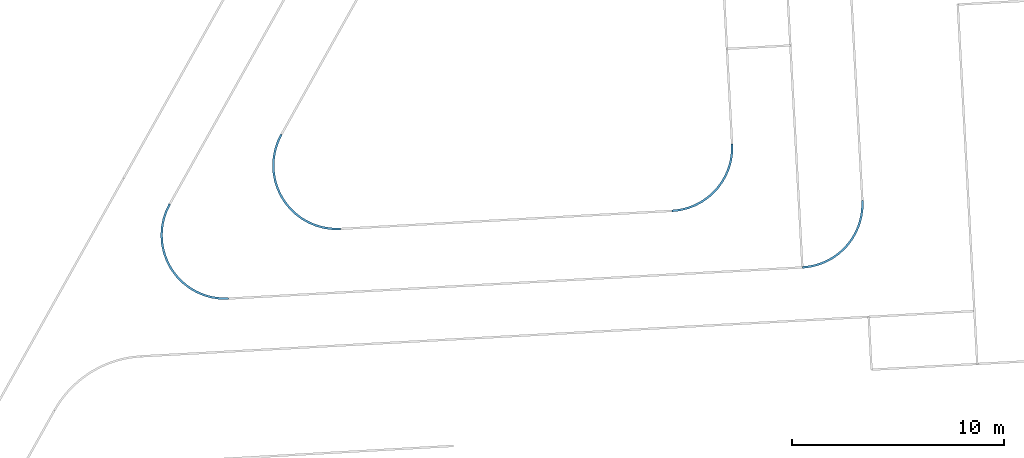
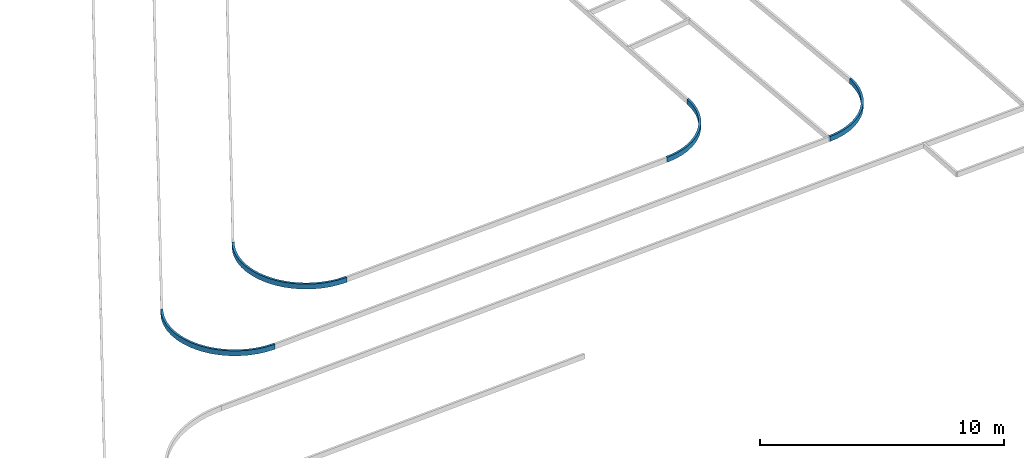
# One storey, part 90 of 112: 4 beams.
"""IFC2X3 building model written with IfcOpenShell, lengths in millimetres."""

from ifc_helpers import new_model, entity, si_unit, converted_unit, derived_unit, direction, frame, origin, place, context, subcontext, project, spatial, faceted_brep, material, type_object, element, save


model = new_model("IFC2X3")

# Units and contexts
model_context = context("Model", 3, precision=0.01, world=origin(), true_north=direction((6.123031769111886e-17, 1.0)))
body_context = subcontext(model_context, "Body", "Model", "MODEL_VIEW")
ifc_project = project(units=[si_unit("LENGTHUNIT", "METRE", prefix="MILLI"), si_unit("AREAUNIT", "SQUARE_METRE"), si_unit("VOLUMEUNIT", "CUBIC_METRE"), converted_unit("PLANEANGLEUNIT", "DEGREE", entity("IfcRatioMeasure", 0.017453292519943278), si_unit("PLANEANGLEUNIT", "RADIAN"), dimensions=[0, 0, 0, 0, 0, 0, 0]), si_unit("MASSUNIT", "GRAM", prefix="KILO"), derived_unit("MASSDENSITYUNIT", [(si_unit("MASSUNIT", "GRAM", prefix="KILO"), 1), (si_unit("LENGTHUNIT", "METRE"), -3)]), derived_unit("MOMENTOFINERTIAUNIT", [(si_unit("LENGTHUNIT", "METRE"), 4)]), si_unit("TIMEUNIT", "SECOND"), si_unit("FREQUENCYUNIT", "HERTZ"), si_unit("THERMODYNAMICTEMPERATUREUNIT", "DEGREE_CELSIUS"), derived_unit("THERMALTRANSMITTANCEUNIT", [(si_unit("MASSUNIT", "GRAM", prefix="KILO"), 1), (si_unit("THERMODYNAMICTEMPERATUREUNIT", "KELVIN"), -1), (si_unit("TIMEUNIT", "SECOND"), -3)]), derived_unit("THERMALCONDUCTANCEUNIT", [(si_unit("MASSUNIT", "GRAM", prefix="KILO"), 1), (si_unit("LENGTHUNIT", "METRE"), 1), (si_unit("THERMODYNAMICTEMPERATUREUNIT", "KELVIN"), -1), (si_unit("TIMEUNIT", "SECOND"), -3)]), derived_unit("VOLUMETRICFLOWRATEUNIT", [(si_unit("LENGTHUNIT", "METRE"), 3), (si_unit("TIMEUNIT", "SECOND"), -1)]), derived_unit("MASSFLOWRATEUNIT", [(si_unit("MASSUNIT", "GRAM", prefix="KILO"), 1), (si_unit("TIMEUNIT", "SECOND"), -1)]), derived_unit("ROTATIONALFREQUENCYUNIT", [(si_unit("TIMEUNIT", "SECOND"), -1)]), si_unit("ELECTRICCURRENTUNIT", "AMPERE"), si_unit("ELECTRICVOLTAGEUNIT", "VOLT"), si_unit("POWERUNIT", "WATT"), converted_unit("FORCEUNIT", "KIP", entity("IfcRatioMeasure", 2.088543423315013e-05), si_unit("FORCEUNIT", "NEWTON"), dimensions=[1, 1, -2, 0, 0, 0, 0]), si_unit("ILLUMINANCEUNIT", "LUX"), si_unit("LUMINOUSFLUXUNIT", "LUMEN"), si_unit("LUMINOUSINTENSITYUNIT", "CANDELA"), derived_unit("USERDEFINED", [(si_unit("MASSUNIT", "GRAM", prefix="KILO"), -1), (si_unit("LENGTHUNIT", "METRE"), -2), (si_unit("TIMEUNIT", "SECOND"), 3), (si_unit("LUMINOUSFLUXUNIT", "LUMEN"), 1)]), derived_unit("USERDEFINED", [(si_unit("MASSUNIT", "GRAM", prefix="KILO"), 1), (si_unit("LENGTHUNIT", "METRE"), 3), (si_unit("TIMEUNIT", "SECOND"), -3), (si_unit("ELECTRICCURRENTUNIT", "AMPERE"), -2)]), derived_unit("USERDEFINED", [(si_unit("LENGTHUNIT", "METRE"), 2), (si_unit("TIMEUNIT", "SECOND"), -2)]), derived_unit("SOUNDPOWERUNIT", [(si_unit("MASSUNIT", "GRAM", prefix="KILO"), 1), (si_unit("LENGTHUNIT", "METRE"), 2), (si_unit("TIMEUNIT", "SECOND"), -3)]), derived_unit("SOUNDPRESSUREUNIT", [(si_unit("MASSUNIT", "GRAM", prefix="KILO"), 1), (si_unit("LENGTHUNIT", "METRE"), -1), (si_unit("TIMEUNIT", "SECOND"), -2)]), derived_unit("LINEARVELOCITYUNIT", [(si_unit("LENGTHUNIT", "METRE"), 1), (si_unit("TIMEUNIT", "SECOND"), -1)]), si_unit("PRESSUREUNIT", "PASCAL"), derived_unit("USERDEFINED", [(si_unit("LENGTHUNIT", "METRE"), -2), (si_unit("MASSUNIT", "GRAM", prefix="KILO"), 1), (si_unit("TIMEUNIT", "SECOND"), -2)]), derived_unit("LINEARFORCEUNIT", [(si_unit("MASSUNIT", "GRAM", prefix="KILO"), 1), (si_unit("LENGTHUNIT", "METRE"), 1), (si_unit("TIMEUNIT", "SECOND"), -2), (si_unit("LENGTHUNIT", "METRE"), -1)]), derived_unit("PLANARFORCEUNIT", [(si_unit("MASSUNIT", "GRAM", prefix="KILO"), 1), (si_unit("LENGTHUNIT", "METRE"), 1), (si_unit("TIMEUNIT", "SECOND"), -2), (si_unit("LENGTHUNIT", "METRE"), -2)]), derived_unit("SPECIFICHEATCAPACITYUNIT", [(si_unit("LENGTHUNIT", "METRE"), 2), (si_unit("TIMEUNIT", "SECOND"), -2), (si_unit("THERMODYNAMICTEMPERATUREUNIT", "KELVIN"), -1)]), derived_unit("VAPORPERMEABILITYUNIT", [(si_unit("TIMEUNIT", "SECOND"), 1), (si_unit("LENGTHUNIT", "METRE"), -1)]), derived_unit("DYNAMICVISCOSITYUNIT", [(si_unit("MASSUNIT", "GRAM", prefix="KILO"), 1), (si_unit("LENGTHUNIT", "METRE"), -1), (si_unit("TIMEUNIT", "SECOND"), -1)]), derived_unit("THERMALEXPANSIONCOEFFICIENTUNIT", [(si_unit("THERMODYNAMICTEMPERATUREUNIT", "KELVIN"), -1)])], contexts=[model_context])

# Site, building, storey
site_placement = place(None, frame((0.0, 0.0, 0.0), z_axis=(0.0, 0.0, 1.0), x_axis=(0.8191520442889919, 0.5735764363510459, 0.0)))
site = spatial("IfcSite", under=ifc_project, at=site_placement, Name="Default", CompositionType="ELEMENT")
building_placement = place(site_placement, origin())
building = spatial("IfcBuilding", under=site, at=building_placement, CompositionType="ELEMENT")
storey_placement = place(building_placement, frame((0.0, 0.0, -3600.0)))
storey = spatial("IfcBuildingStorey", under=building, at=storey_placement, Name="0.UG -3.60", CompositionType="ELEMENT", Elevation=-3600.0000000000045)

# Beams
ifc_material = material(Name="Paveta_bordur")
beam_type_1 = type_object("IfcBeamType", Name="Beam-146", PredefinedType="NOTDEFINED")
beam_1_placement = place(storey_placement, frame((-44961.906120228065, 81091.59817220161, 1360.0)))
element("IfcBeam", 1, at=beam_1_placement, inside=storey, type_object=beam_type_1, material=ifc_material, Name="Beam-146:Beam-146", ObjectType="Beam-146:Beam-146", context=body_context, shape_type="Brep", body=[
    faceted_brep([(1767.6512230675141, 5247.170794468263, 250.0), (1767.6512230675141, 5247.170794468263, 0.0), (1724.1324543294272, 5337.204770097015, 0.0), (1724.1324543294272, 5337.204770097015, 250.0), (1440.0547554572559, 1.5952722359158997, 0.0), (1492.887547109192, 86.49931293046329, 0.0), (1492.887547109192, 86.49931293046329, 250.0), (1440.0547554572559, 1.5952722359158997, 250.0), (1334.2374162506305, 192.48885356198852, 0.0), (1128.4197543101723, 223.79954656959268, 0.0), (847.0677480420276, 483.2839623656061, 0.0), (600.4293272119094, 775.9622889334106, 0.0), (392.3884302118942, 1097.2255744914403, 0.0), (226.2211809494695, 1442.014725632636, 0.0), (104.54429808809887, 1804.9001753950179, 0.0), (29.273888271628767, 2180.1673853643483, 0.0), (1.5952722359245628, 2561.906835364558, 0.0), (21.94431897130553, 2944.107083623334, 0.0), (90.00058187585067, 3320.7494319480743, 0.0), (204.69234498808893, 3685.902705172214, 0.0), (364.21349983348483, 4033.816652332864, 0.0), (566.0519871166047, 4359.012498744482, 0.0), (807.0293553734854, 4656.369223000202, 0.0), (1083.350813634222, 4921.20420025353, 0.0), (1390.6649898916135, 5149.346941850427, 0.0), (1598.6437437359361, 5158.626349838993, 0.0), (1435.7135553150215, 5059.341907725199, 0.0), (1279.5422151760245, 4949.732787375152, 0.0), (1130.7830075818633, 4830.257497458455, 0.0), (990.0582109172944, 4701.415818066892, 0.0), (857.9564946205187, 4563.746710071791, 0.0), (735.0304567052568, 4417.826060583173, 0.0), (621.7943121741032, 4264.264273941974, 0.0), (518.7217419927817, 4103.703718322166, 0.0), (426.243911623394, 3936.8160386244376, 0.0), (344.7476674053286, 3764.2993469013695, 0.0), (274.573918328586, 3586.875302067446, 0.0), (216.01620996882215, 3405.2860911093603, 0.0), (169.31949654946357, 3220.291324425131, 0.0), (134.679116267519, 3032.6648582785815, 0.0), (112.23997416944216, 2843.191557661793, 0.0), (102.0959359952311, 2652.6640131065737, 0.0), (104.28943552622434, 2461.8792251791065, 0.0), (118.81129707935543, 2271.635270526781, 0.0), (145.6007738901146, 2082.7279634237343, 0.0), (184.54580222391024, 1895.9475267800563, 0.0), (235.48347015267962, 1712.0752865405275, 0.0), (298.20069903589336, 1531.8804033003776, 0.0), (372.435134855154, 1356.1166548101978, 0.0), (457.87624567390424, 1185.5192828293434, 0.0), (554.1666206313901, 1020.801917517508, 0.0), (660.9034650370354, 862.6535922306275, 0.0), (777.6402853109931, 711.7358612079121, 0.0), (903.8887567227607, 568.6800322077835, 0.0), (1039.1207661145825, 434.08452566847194, 0.0), (1182.770621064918, 308.5123714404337, 0.0), (1390.6649898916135, 5149.346941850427, 250.0), (1083.350813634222, 4921.20420025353, 250.0), (807.0293553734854, 4656.369223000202, 250.0), (90.00058187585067, 3320.7494319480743, 250.0), (204.69234498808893, 3685.902705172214, 250.0), (566.0519871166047, 4359.012498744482, 250.0), (364.21349983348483, 4033.816652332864, 250.0), (21.94431897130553, 2944.107083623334, 250.0), (1.5952722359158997, 2561.906835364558, 250.0), (29.273888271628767, 2180.1673853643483, 250.0), (104.54429808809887, 1804.9001753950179, 250.0), (226.22118094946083, 1442.014725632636, 250.0), (1128.4197543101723, 223.79954656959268, 250.0), (847.0677480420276, 483.2839623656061, 250.0), (392.3884302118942, 1097.2255744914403, 250.0), (600.4293272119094, 775.9622889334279, 250.0), (1334.2374162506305, 192.48885356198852, 250.0), (1182.770621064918, 308.5123714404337, 250.0), (1039.1207661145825, 434.08452566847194, 250.0), (903.8887567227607, 568.6800322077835, 250.0), (777.6402853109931, 711.7358612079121, 250.0), (660.9034650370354, 862.6535922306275, 250.0), (554.1666206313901, 1020.801917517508, 250.0), (457.87624567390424, 1185.5192828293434, 250.0), (372.435134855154, 1356.1166548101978, 250.0), (298.20069903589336, 1531.8804033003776, 250.0), (235.48347015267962, 1712.0752865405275, 250.0), (184.54580222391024, 1895.9475267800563, 250.0), (145.6007738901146, 2082.7279634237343, 250.0), (118.81129707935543, 2271.635270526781, 250.0), (104.28943552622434, 2461.8792251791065, 250.0), (102.0959359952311, 2652.6640131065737, 250.0), (112.23997416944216, 2843.191557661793, 250.0), (134.679116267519, 3032.6648582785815, 250.0), (169.31949654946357, 3220.291324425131, 250.0), (216.01620996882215, 3405.2860911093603, 250.0), (274.573918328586, 3586.875302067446, 250.0), (344.7476674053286, 3764.2993469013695, 250.0), (426.243911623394, 3936.8160386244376, 250.0), (518.7217419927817, 4103.703718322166, 250.0), (621.7943121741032, 4264.264273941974, 250.0), (735.0304567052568, 4417.826060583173, 250.0), (857.9564946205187, 4563.746710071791, 250.0), (990.0582109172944, 4701.415818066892, 250.0), (1130.7830075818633, 4830.257497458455, 250.0), (1279.5422151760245, 4949.732787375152, 250.0), (1435.7135553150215, 5059.341907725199, 250.0), (1598.6437437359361, 5158.626349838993, 250.0)], [[[0, 1, 2, 3]], [[4, 5, 6, 7]], [[8, 5, 4, 9, 10, 11, 12, 13, 14, 15, 16, 17, 18, 19, 20, 21, 22, 23, 24, 2, 1, 25, 26, 27, 28, 29, 30, 31, 32, 33, 34, 35, 36, 37, 38, 39, 40, 41, 42, 43, 44, 45, 46, 47, 48, 49, 50, 51, 52, 53, 54, 55]], [[56, 3, 2, 24]], [[57, 56, 24, 23]], [[57, 23, 22, 58]], [[19, 18, 59, 60]], [[61, 21, 20, 62]], [[62, 20, 19, 60]], [[21, 61, 58, 22]], [[59, 18, 17, 63]], [[17, 16, 64, 63]], [[65, 15, 14, 66]], [[64, 16, 15, 65]], [[66, 14, 13, 67]], [[10, 9, 68, 69]], [[70, 12, 11, 71]], [[71, 11, 10, 69]], [[13, 12, 70, 67]], [[68, 9, 4, 7]], [[7, 6, 72, 73, 74, 75, 76, 77, 78, 79, 80, 81, 82, 83, 84, 85, 86, 87, 88, 89, 90, 91, 92, 93, 94, 95, 96, 97, 98, 99, 100, 101, 102, 103, 0, 3, 56, 57, 58, 61, 62, 60, 59, 63, 64, 65, 66, 67, 70, 71, 69, 68]], [[1, 0, 103, 25]], [[26, 25, 103, 102]], [[101, 27, 26, 102]], [[100, 28, 27, 101]], [[31, 30, 98, 97]], [[30, 29, 99, 98]], [[29, 28, 100, 99]], [[37, 36, 92, 91]], [[37, 91, 90, 38]], [[39, 38, 90, 89]], [[33, 32, 96, 95]], [[94, 93, 35, 34]], [[33, 95, 94, 34]], [[36, 35, 93, 92]], [[31, 97, 96, 32]], [[40, 39, 89, 88]], [[88, 87, 41, 40]], [[44, 84, 83, 45]], [[45, 83, 82, 46]], [[46, 82, 81, 47]], [[42, 41, 87, 86]], [[43, 42, 86, 85]], [[43, 85, 84, 44]], [[48, 47, 81, 80]], [[54, 53, 75, 74]], [[55, 54, 74, 73]], [[8, 55, 73, 72]], [[50, 49, 79, 78]], [[77, 76, 52, 51]], [[50, 78, 77, 51]], [[53, 52, 76, 75]], [[48, 80, 79, 49]], [[5, 8, 72, 6]]]),
])
beam_type_2 = type_object("IfcBeamType", Name="Beam-142", PredefinedType="NOTDEFINED")
beam_2_placement = place(storey_placement, frame((-30197.268868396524, 72338.88035851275, 1360.0)))
element("IfcBeam", 2, at=beam_2_placement, inside=storey, type_object=beam_type_2, material=ifc_material, Name="Beam-142:Beam-142", ObjectType="Beam-142:Beam-142", context=body_context, shape_type="Brep", body=[
    faceted_brep([(54.42806388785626, 546.8064497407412, 250.0), (54.42806388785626, 546.8064497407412, 0.0), (1.5952722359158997, 461.9024090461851, 0.0), (1.5952722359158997, 461.9024090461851, 250.0), (4202.568658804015, 1440.0755048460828, 0.0), (4117.664618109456, 1492.908296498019, 0.0), (4117.664618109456, 1492.908296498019, 250.0), (4202.568658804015, 1440.0755048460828, 250.0), (3105.9578068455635, 391.8585153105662, 0.0), (2760.8469369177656, 225.71258697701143, 0.0), (2397.6337628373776, 104.13063017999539, 0.0), (2211.0201332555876, 60.6786929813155, 0.0), (1831.4582761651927, 9.309648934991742, 0.0), (1448.4511292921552, 5.917380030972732, 0.0), (1068.0389441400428, 50.55538437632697, 0.0), (696.2210481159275, 142.51969397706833, 0.0), (338.8612315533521, 280.35997673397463, 0.0), (221.57827962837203, 450.2339567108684, 0.0), (394.68675716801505, 364.8003799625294, 0.0), (573.0122194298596, 290.871559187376, 0.0), (755.7910494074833, 228.76406894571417, 0.0), (942.2405600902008, 178.74386304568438, 0.0), (1131.5623460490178, 141.02513568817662, 0.0), (1322.9457023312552, 115.7694042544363, 0.0), (1515.5710960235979, 103.08481766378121, 0.0), (1708.613675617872, 103.02569326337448, 0.0), (1901.2468031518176, 115.59228423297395, 0.0), (2092.6455939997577, 140.7307785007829, 0.0), (2281.990449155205, 178.33352917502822, 0.0), (2468.4705648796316, 228.23951550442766, 0.0), (2651.287404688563, 290.2350323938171, 0.0), (2829.658118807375, 364.05460552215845, 0.0), (3002.81889645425, 449.38212814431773, 0.0), (3170.028236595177, 545.8522147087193, 0.0), (3330.5701231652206, 653.05176549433, 0.0), (3483.757091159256, 770.5217355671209, 0.0), (3628.933170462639, 897.7591004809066, 0.0), (3765.4766948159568, 1034.219010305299, 0.0), (3892.8029638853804, 1179.3171227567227, 0.0), (4010.366747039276, 1332.4321054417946, 0.0), (3980.187109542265, 1128.222288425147, 0.0), (3720.473533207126, 846.6999264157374, 0.0), (3427.5237680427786, 599.9481946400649, 0.0), (338.8612315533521, 280.35997673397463, 250.0), (696.2210481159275, 142.51969397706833, 250.0), (1831.4582761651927, 9.309648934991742, 250.0), (1448.4511292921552, 5.917380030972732, 250.0), (1068.0389441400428, 50.55538437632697, 250.0), (2211.0201332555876, 60.6786929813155, 250.0), (2397.6337628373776, 104.13063017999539, 250.0), (2760.8469369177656, 225.71258697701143, 250.0), (3105.9578068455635, 391.8585153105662, 250.0), (3980.1871095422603, 1128.222288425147, 250.0), (3720.473533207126, 846.6999264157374, 250.0), (3427.523768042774, 599.9481946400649, 250.0), (3170.028236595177, 545.8522147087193, 250.0), (3002.81889645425, 449.38212814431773, 250.0), (2829.658118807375, 364.05460552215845, 250.0), (2651.287404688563, 290.2350323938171, 250.0), (2468.4705648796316, 228.23951550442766, 250.0), (2281.990449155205, 178.33352917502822, 250.0), (2092.6455939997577, 140.7307785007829, 250.0), (1901.2468031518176, 115.59228423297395, 250.0), (1708.613675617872, 103.02569326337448, 250.0), (1515.5710960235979, 103.08481766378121, 250.0), (1322.9457023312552, 115.7694042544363, 250.0), (1131.5623460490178, 141.02513568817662, 250.0), (942.2405600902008, 178.74386304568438, 250.0), (755.7910494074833, 228.76406894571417, 250.0), (573.0122194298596, 290.871559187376, 250.0), (394.68675716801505, 364.8003799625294, 250.0), (221.57827962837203, 450.2339567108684, 250.0), (4010.366747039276, 1332.4321054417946, 250.0), (3892.8029638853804, 1179.3171227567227, 250.0), (3765.4766948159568, 1034.219010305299, 250.0), (3628.933170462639, 897.7591004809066, 250.0), (3483.757091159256, 770.5217355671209, 250.0), (3330.5701231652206, 653.05176549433, 250.0)], [[[0, 1, 2, 3]], [[4, 5, 6, 7]], [[8, 9, 10, 11, 12, 13, 14, 15, 16, 2, 1, 17, 18, 19, 20, 21, 22, 23, 24, 25, 26, 27, 28, 29, 30, 31, 32, 33, 34, 35, 36, 37, 38, 39, 5, 4, 40, 41, 42]], [[43, 3, 2, 16]], [[43, 16, 15, 44]], [[13, 12, 45, 46]], [[47, 14, 13, 46]], [[15, 14, 47, 44]], [[45, 12, 11, 48]], [[11, 10, 49, 48]], [[49, 10, 9, 50]], [[8, 51, 50, 9]], [[41, 40, 52, 53]], [[54, 42, 41, 53]], [[51, 8, 42, 54]], [[52, 40, 4, 7]], [[55, 56, 57, 58, 59, 60, 61, 62, 63, 64, 65, 66, 67, 68, 69, 70, 71, 0, 3, 43, 44, 47, 46, 45, 48, 49, 50, 51, 54, 53, 52, 7, 6, 72, 73, 74, 75, 76, 77]], [[17, 1, 0, 71]], [[70, 18, 17, 71]], [[67, 66, 22, 21]], [[18, 70, 69, 19]], [[26, 25, 63, 62]], [[27, 26, 62, 61]], [[24, 23, 65, 64]], [[25, 24, 64, 63]], [[22, 66, 65, 23]], [[28, 27, 61, 60]], [[68, 20, 19, 69]], [[67, 21, 20, 68]], [[31, 57, 56, 32]], [[32, 56, 55, 33]], [[30, 29, 59, 58]], [[30, 58, 57, 31]], [[34, 33, 55, 77]], [[38, 37, 74, 73]], [[39, 38, 73, 72]], [[36, 35, 76, 75]], [[37, 36, 75, 74]], [[34, 77, 76, 35]], [[5, 39, 72, 6]], [[60, 59, 29, 28]]]),
])
beam_type_3 = type_object("IfcBeamType", Name="Beam-140", PredefinedType="NOTDEFINED")
beam_3_placement = place(storey_placement, frame((-26688.01017628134, 66621.79163855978, 1860.0)))
element("IfcBeam", 3, at=beam_3_placement, inside=storey, type_object=beam_type_3, material=ifc_material, Name="Beam-140 237048:Beam-140 237048", ObjectType="Beam-140 237048:Beam-140 237048", context=body_context, shape_type="Brep", body=[
    faceted_brep([(54.42806388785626, 546.8064497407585, 250.0), (54.42806388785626, 546.8064497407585, 0.0), (1.5952722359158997, 461.9024090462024, 0.0), (1.5952722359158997, 461.9024090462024, 250.0), (4202.568658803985, 1440.0755048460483, 0.0), (4117.664618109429, 1492.9082964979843, 0.0), (4117.664618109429, 1492.9082964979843, 250.0), (4202.568658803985, 1440.0755048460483, 250.0), (3105.9578068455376, 391.85851531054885, 0.0), (2760.8469369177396, 225.71258697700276, 0.0), (2397.6337628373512, 104.13063017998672, 0.0), (2211.0201332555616, 60.6786929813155, 0.0), (1831.4582761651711, 9.309648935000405, 0.0), (1448.451129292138, 5.917380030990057, 0.0), (1068.0389441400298, 50.5553843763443, 0.0), (696.2210481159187, 142.51969397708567, 0.0), (338.8612315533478, 280.35997673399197, 0.0), (221.5782796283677, 450.23395671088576, 0.0), (394.68675716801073, 364.80037996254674, 0.0), (573.0122194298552, 290.8715591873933, 0.0), (755.7910494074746, 228.7640689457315, 0.0), (942.2405600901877, 178.74386304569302, 0.0), (1131.5623460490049, 141.02513568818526, 0.0), (1322.945702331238, 115.76940425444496, 0.0), (1515.5710960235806, 103.08481766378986, 0.0), (1708.6136756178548, 103.02569326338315, 0.0), (1901.2468031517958, 115.59228423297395, 0.0), (2092.645593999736, 140.7307785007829, 0.0), (2281.9904491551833, 178.33352917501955, 0.0), (2468.47056487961, 228.23951550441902, 0.0), (2651.287404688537, 290.23503239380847, 0.0), (2829.6581188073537, 364.05460552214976, 0.0), (3002.818896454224, 449.3821281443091, 0.0), (3170.028236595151, 545.8522147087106, 0.0), (3330.5701231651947, 653.0517654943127, 0.0), (3483.75709115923, 770.5217355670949, 0.0), (3628.933170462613, 897.7591004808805, 0.0), (3765.476694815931, 1034.219010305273, 0.0), (3892.8029638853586, 1179.3171227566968, 0.0), (4010.3667470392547, 1332.4321054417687, 0.0), (3980.1871095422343, 1128.2222884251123, 0.0), (3720.4735332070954, 846.6999264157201, 0.0), (3427.523768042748, 599.9481946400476, 0.0), (338.8612315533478, 280.35997673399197, 250.0), (696.2210481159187, 142.51969397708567, 250.0), (1831.4582761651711, 9.309648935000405, 250.0), (1448.451129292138, 5.917380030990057, 250.0), (1068.0389441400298, 50.5553843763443, 250.0), (2211.0201332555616, 60.6786929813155, 250.0), (2397.6337628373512, 104.13063017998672, 250.0), (2760.8469369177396, 225.71258697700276, 250.0), (3105.9578068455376, 391.85851531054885, 250.0), (3980.1871095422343, 1128.2222884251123, 250.0), (3720.4735332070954, 846.6999264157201, 250.0), (3427.523768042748, 599.9481946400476, 250.0), (3170.028236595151, 545.8522147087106, 250.0), (3002.818896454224, 449.3821281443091, 250.0), (2829.6581188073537, 364.05460552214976, 250.0), (2651.287404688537, 290.23503239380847, 250.0), (2468.47056487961, 228.23951550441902, 250.0), (2281.9904491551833, 178.33352917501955, 250.0), (2092.645593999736, 140.7307785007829, 250.0), (1901.2468031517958, 115.59228423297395, 250.0), (1708.6136756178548, 103.02569326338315, 250.0), (1515.5710960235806, 103.08481766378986, 250.0), (1322.945702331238, 115.76940425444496, 250.0), (1131.5623460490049, 141.02513568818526, 250.0), (942.2405600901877, 178.74386304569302, 250.0), (755.7910494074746, 228.7640689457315, 250.0), (573.0122194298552, 290.8715591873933, 250.0), (394.68675716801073, 364.80037996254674, 250.0), (221.5782796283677, 450.23395671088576, 250.0), (4010.3667470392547, 1332.4321054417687, 250.0), (3892.8029638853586, 1179.3171227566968, 250.0), (3765.476694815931, 1034.219010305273, 250.0), (3628.933170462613, 897.7591004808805, 250.0), (3483.75709115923, 770.5217355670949, 250.0), (3330.5701231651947, 653.0517654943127, 250.0)], [[[0, 1, 2, 3]], [[4, 5, 6, 7]], [[8, 9, 10, 11, 12, 13, 14, 15, 16, 2, 1, 17, 18, 19, 20, 21, 22, 23, 24, 25, 26, 27, 28, 29, 30, 31, 32, 33, 34, 35, 36, 37, 38, 39, 5, 4, 40, 41, 42]], [[43, 3, 2, 16]], [[43, 16, 15, 44]], [[13, 12, 45, 46]], [[47, 14, 13, 46]], [[15, 14, 47, 44]], [[45, 12, 11, 48]], [[11, 10, 49, 48]], [[49, 10, 9, 50]], [[8, 51, 50, 9]], [[41, 40, 52, 53]], [[54, 42, 41, 53]], [[51, 8, 42, 54]], [[52, 40, 4, 7]], [[55, 56, 57, 58, 59, 60, 61, 62, 63, 64, 65, 66, 67, 68, 69, 70, 71, 0, 3, 43, 44, 47, 46, 45, 48, 49, 50, 51, 54, 53, 52, 7, 6, 72, 73, 74, 75, 76, 77]], [[17, 1, 0, 71]], [[70, 18, 17, 71]], [[67, 66, 22, 21]], [[18, 70, 69, 19]], [[26, 25, 63, 62]], [[27, 26, 62, 61]], [[24, 23, 65, 64]], [[25, 24, 64, 63]], [[22, 66, 65, 23]], [[28, 27, 61, 60]], [[68, 20, 19, 69]], [[67, 21, 20, 68]], [[31, 57, 56, 32]], [[32, 56, 55, 33]], [[30, 29, 59, 58]], [[30, 58, 57, 31]], [[34, 33, 55, 77]], [[38, 37, 74, 73]], [[39, 38, 73, 72]], [[36, 35, 76, 75]], [[37, 36, 75, 74]], [[34, 77, 76, 35]], [[5, 39, 72, 6]], [[60, 59, 29, 28]]]),
])
beam_type_4 = type_object("IfcBeamType", Name="Beam-140", PredefinedType="NOTDEFINED")
beam_4_placement = place(storey_placement, frame((-51170.84864773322, 81429.80961485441, 1860.0)))
element("IfcBeam", 4, at=beam_4_placement, inside=storey, type_object=beam_type_4, material=ifc_material, Name="Beam-140 237450:Beam-140 237450", ObjectType="Beam-140 237450:Beam-140 237450", context=body_context, shape_type="Brep", body=[
    faceted_brep([(1766.999991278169, 5239.569269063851, 250.0), (1766.999991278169, 5239.569269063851, 0.0), (1723.4824041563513, 5329.603815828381, 0.0), (1723.4824041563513, 5329.603815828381, 250.0), (1427.1897207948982, 1.5952722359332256, 0.0), (1480.4218221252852, 86.24953017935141, 0.0), (1480.4218221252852, 86.24953017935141, 250.0), (1427.1897207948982, 1.5952722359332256, 250.0), (1322.6129237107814, 192.73914155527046, 0.0), (1108.3143198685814, 232.08877507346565, 0.0), (821.7645306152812, 501.7144312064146, 0.0), (572.309009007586, 805.9852298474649, 0.0), (364.0991018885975, 1139.837608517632, 0.0), (200.59976178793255, 1497.7157189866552, 0.0), (84.53188445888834, 1873.6638856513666, 0.0), (17.82702873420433, 2261.425717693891, 0.0), (1.5952722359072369, 2654.5482256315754, 0.0), (12.52424945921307, 2851.075805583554, 0.0), (72.24452244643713, 3239.9745908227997, 0.0), (181.5322987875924, 3617.949402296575, 0.0), (338.56885159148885, 3978.7101225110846, 0.0), (540.7408364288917, 4316.25310453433, 0.0), (784.6837816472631, 4624.961082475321, 0.0), (1066.3380786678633, 4899.6966519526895, 0.0), (1381.0165404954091, 5135.887764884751, 0.0), (1598.356791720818, 5151.233789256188, 0.0), (1435.7625165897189, 5052.204564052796, 0.0), (1279.8943294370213, 4942.894024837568, 0.0), (1131.401381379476, 4823.757422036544, 0.0), (990.9021075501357, 4695.290929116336, 0.0), (858.9816514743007, 4558.029576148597, 0.0), (736.1894280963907, 4412.545021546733, 0.0), (623.0368356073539, 4259.4431712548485, 0.0), (519.9951256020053, 4099.361655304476, 0.0), (427.49344043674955, 3932.9671722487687, 0.0), (345.9170259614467, 3760.952712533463, 0.0), (275.60562706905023, 3584.03467236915, 0.0), (216.85207274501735, 3402.9498701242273, 0.0), (169.90105650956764, 3218.4524776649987, 0.0), (134.94811733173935, 3031.3108794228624, 0.0), (112.13882525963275, 2842.304472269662, 0.0), (101.56817515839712, 2652.220419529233, 0.0), (103.28019108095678, 2461.8503726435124, 0.0), (117.26774291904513, 2271.987174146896, 0.0), (143.47257609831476, 2083.4215556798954, 0.0), (181.7855541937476, 1896.93884479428, 0.0), (232.0471134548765, 1713.3156942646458, 0.0), (294.047927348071, 1533.3168475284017, 0.0), (367.52977834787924, 1357.6919537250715, 0.0), (452.1866333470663, 1187.1724455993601, 0.0), (547.6659182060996, 1022.4684932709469, 0.0), (653.5699861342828, 864.2660465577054, 0.0), (769.4577737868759, 713.223978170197, 0.0), (894.8466381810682, 569.9713396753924, 0.0), (1029.2143667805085, 435.1047416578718, 0.0), (1172.0013523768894, 309.18586898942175, 0.0), (1381.0165404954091, 5135.887764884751, 250.0), (784.6837816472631, 4624.961082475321, 250.0), (1066.3380786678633, 4899.6966519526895, 250.0), (72.24452244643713, 3239.9745908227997, 250.0), (181.5322987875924, 3617.949402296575, 250.0), (540.7408364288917, 4316.25310453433, 250.0), (338.56885159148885, 3978.7101225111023, 250.0), (12.52424945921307, 2851.075805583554, 250.0), (1.5952722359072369, 2654.5482256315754, 250.0), (17.827028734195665, 2261.425717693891, 250.0), (84.53188445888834, 1873.6638856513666, 250.0), (200.59976178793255, 1497.7157189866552, 250.0), (1108.3143198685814, 232.08877507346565, 250.0), (821.7645306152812, 501.7144312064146, 250.0), (364.0991018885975, 1139.837608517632, 250.0), (572.3090090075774, 805.9852298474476, 250.0), (1322.6129237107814, 192.73914155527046, 250.0), (1172.0013523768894, 309.18586898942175, 250.0), (1029.2143667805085, 435.1047416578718, 250.0), (894.8466381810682, 569.9713396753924, 250.0), (769.4577737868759, 713.223978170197, 250.0), (653.5699861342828, 864.2660465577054, 250.0), (547.6659182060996, 1022.4684932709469, 250.0), (452.1866333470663, 1187.1724455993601, 250.0), (367.52977834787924, 1357.6919537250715, 250.0), (294.047927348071, 1533.3168475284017, 250.0), (232.0471134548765, 1713.3156942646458, 250.0), (181.7855541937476, 1896.93884479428, 250.0), (143.47257609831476, 2083.4215556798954, 250.0), (117.26774291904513, 2271.987174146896, 250.0), (103.28019108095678, 2461.8503726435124, 250.0), (101.56817515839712, 2652.220419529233, 250.0), (112.13882525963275, 2842.304472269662, 250.0), (134.94811733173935, 3031.3108794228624, 250.0), (169.90105650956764, 3218.4524776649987, 250.0), (216.85207274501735, 3402.9498701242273, 250.0), (275.60562706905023, 3584.03467236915, 250.0), (345.9170259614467, 3760.952712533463, 250.0), (427.49344043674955, 3932.9671722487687, 250.0), (519.9951256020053, 4099.361655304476, 250.0), (623.0368356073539, 4259.4431712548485, 250.0), (736.1894280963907, 4412.545021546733, 250.0), (858.9816514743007, 4558.029576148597, 250.0), (990.9021075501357, 4695.290929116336, 250.0), (1131.401381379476, 4823.757422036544, 250.0), (1279.8943294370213, 4942.894024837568, 250.0), (1435.7625165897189, 5052.204564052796, 250.0), (1598.356791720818, 5151.233789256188, 250.0)], [[[0, 1, 2, 3]], [[4, 5, 6, 7]], [[8, 5, 4, 9, 10, 11, 12, 13, 14, 15, 16, 17, 18, 19, 20, 21, 22, 23, 24, 2, 1, 25, 26, 27, 28, 29, 30, 31, 32, 33, 34, 35, 36, 37, 38, 39, 40, 41, 42, 43, 44, 45, 46, 47, 48, 49, 50, 51, 52, 53, 54, 55]], [[56, 3, 2, 24]], [[23, 22, 57, 58]], [[58, 56, 24, 23]], [[19, 18, 59, 60]], [[61, 21, 20, 62]], [[62, 20, 19, 60]], [[21, 61, 57, 22]], [[59, 18, 17, 63]], [[17, 16, 64, 63]], [[65, 15, 14, 66]], [[64, 16, 15, 65]], [[66, 14, 13, 67]], [[10, 9, 68, 69]], [[70, 12, 11, 71]], [[71, 11, 10, 69]], [[13, 12, 70, 67]], [[68, 9, 4, 7]], [[7, 6, 72, 73, 74, 75, 76, 77, 78, 79, 80, 81, 82, 83, 84, 85, 86, 87, 88, 89, 90, 91, 92, 93, 94, 95, 96, 97, 98, 99, 100, 101, 102, 103, 0, 3, 56, 58, 57, 61, 62, 60, 59, 63, 64, 65, 66, 67, 70, 71, 69, 68]], [[1, 0, 103, 25]], [[26, 25, 103, 102]], [[101, 27, 26, 102]], [[100, 28, 27, 101]], [[31, 30, 98, 97]], [[30, 29, 99, 98]], [[29, 28, 100, 99]], [[37, 36, 92, 91]], [[37, 91, 90, 38]], [[39, 38, 90, 89]], [[33, 32, 96, 95]], [[94, 93, 35, 34]], [[33, 95, 94, 34]], [[36, 35, 93, 92]], [[31, 97, 96, 32]], [[40, 39, 89, 88]], [[88, 87, 41, 40]], [[44, 84, 83, 45]], [[45, 83, 82, 46]], [[46, 82, 81, 47]], [[42, 41, 87, 86]], [[43, 42, 86, 85]], [[43, 85, 84, 44]], [[48, 47, 81, 80]], [[54, 53, 75, 74]], [[55, 54, 74, 73]], [[8, 55, 73, 72]], [[50, 49, 79, 78]], [[77, 76, 52, 51]], [[50, 78, 77, 51]], [[53, 52, 76, 75]], [[48, 80, 79, 49]], [[5, 8, 72, 6]]]),
])

save(model, "model.ifc")
